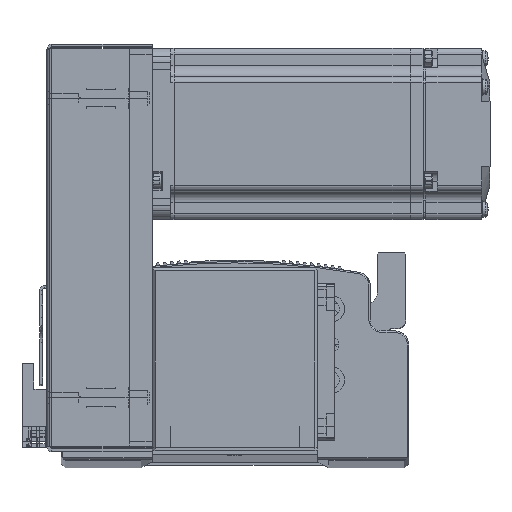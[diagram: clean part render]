
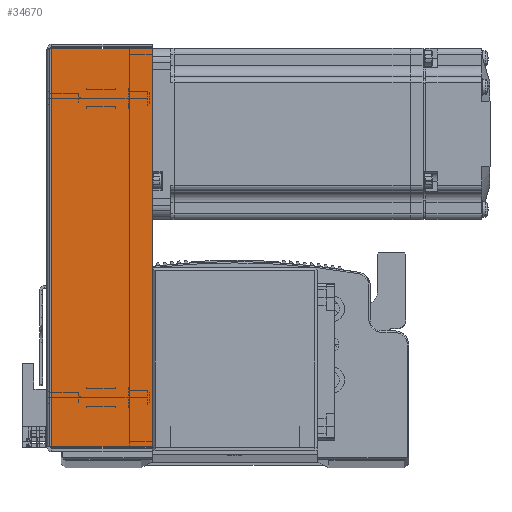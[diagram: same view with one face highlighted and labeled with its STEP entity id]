
A CAD part, top view. The second image highlights one B-rep face of the part: STEP entity #34670.
In plain terms, the highlighted planar face has unit normal (0, 0, 1) as drawn and (0, 0, -1) by its records, which use the part's own axes.
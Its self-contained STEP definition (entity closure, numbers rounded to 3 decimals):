
#11630 = VERTEX_POINT ( 'NONE', #67752 ) ;
#11636 = VERTEX_POINT ( 'NONE', #67756 ) ;
#11645 = VERTEX_POINT ( 'NONE', #67771 ) ;
#11688 = VERTEX_POINT ( 'NONE', #67749 ) ;
#21660 = CARTESIAN_POINT ( 'NONE',  ( 71.5, 0.737, -33.5 ) ) ;
#21662 = DIRECTION ( 'NONE',  ( 1., 0., 0. ) ) ;
#23282 = DIRECTION ( 'NONE',  ( 0., 1., 0. ) ) ;
#23297 = CARTESIAN_POINT ( 'NONE',  ( -69.793, 0., -33.5 ) ) ;
#25163 = VECTOR ( 'NONE', #21662, 1000. ) ;
#25168 = VECTOR ( 'NONE', #23282, 1000. ) ;
#25192 = LINE ( 'NONE', #21660, #25163 ) ;
#25212 = LINE ( 'NONE', #23297, #25168 ) ;
#25231 = LINE ( 'NONE', #43036, #25261 ) ;
#25261 = VECTOR ( 'NONE', #43039, 1000. ) ;
#25325 = LINE ( 'NONE', #43076, #25326 ) ;
#25326 = VECTOR ( 'NONE', #43055, 1000. ) ;
#25774 = ORIENTED_EDGE ( 'NONE', *, *, #50399, .F. ) ;
#25802 = ORIENTED_EDGE ( 'NONE', *, *, #50307, .T. ) ;
#25812 = ORIENTED_EDGE ( 'NONE', *, *, #50330, .F. ) ;
#34670 = ADVANCED_FACE ( 'NONE', ( #89801 ), #38207, .F. ) ;
#38207 = PLANE ( 'NONE',  #42175 ) ;
#38222 = DIRECTION ( 'NONE',  ( 0., 0., 1. ) ) ;
#38250 = CARTESIAN_POINT ( 'NONE',  ( 0., 0., -33.5 ) ) ;
#38255 = DIRECTION ( 'NONE',  ( 0., -1., 0. ) ) ;
#39522 = ORIENTED_EDGE ( 'NONE', *, *, #50387, .T. ) ;
#42175 = AXIS2_PLACEMENT_3D ( 'NONE', #38250, #38222, #38255 ) ;
#43036 = CARTESIAN_POINT ( 'NONE',  ( 0., 36., -33.5 ) ) ;
#43039 = DIRECTION ( 'NONE',  ( 1., 0., 0. ) ) ;
#43055 = DIRECTION ( 'NONE',  ( 0., 1., 0. ) ) ;
#43076 = CARTESIAN_POINT ( 'NONE',  ( 69.793, 0., -33.5 ) ) ;
#50307 = EDGE_CURVE ( 'NONE', #11688, #11636, #25212, .T. ) ;
#50330 = EDGE_CURVE ( 'NONE', #11688, #11630, #25192, .T. ) ;
#50387 = EDGE_CURVE ( 'NONE', #11636, #11645, #25231, .T. ) ;
#50399 = EDGE_CURVE ( 'NONE', #11630, #11645, #25325, .T. ) ;
#67749 = CARTESIAN_POINT ( 'NONE',  ( -69.793, 0.737, -33.5 ) ) ;
#67752 = CARTESIAN_POINT ( 'NONE',  ( 69.793, 0.737, -33.5 ) ) ;
#67756 = CARTESIAN_POINT ( 'NONE',  ( -69.793, 36., -33.5 ) ) ;
#67771 = CARTESIAN_POINT ( 'NONE',  ( 69.793, 36., -33.5 ) ) ;
#87701 = EDGE_LOOP ( 'NONE', ( #25812, #25802, #39522, #25774 ) ) ;
#89801 = FACE_OUTER_BOUND ( 'NONE', #87701, .T. ) ;
